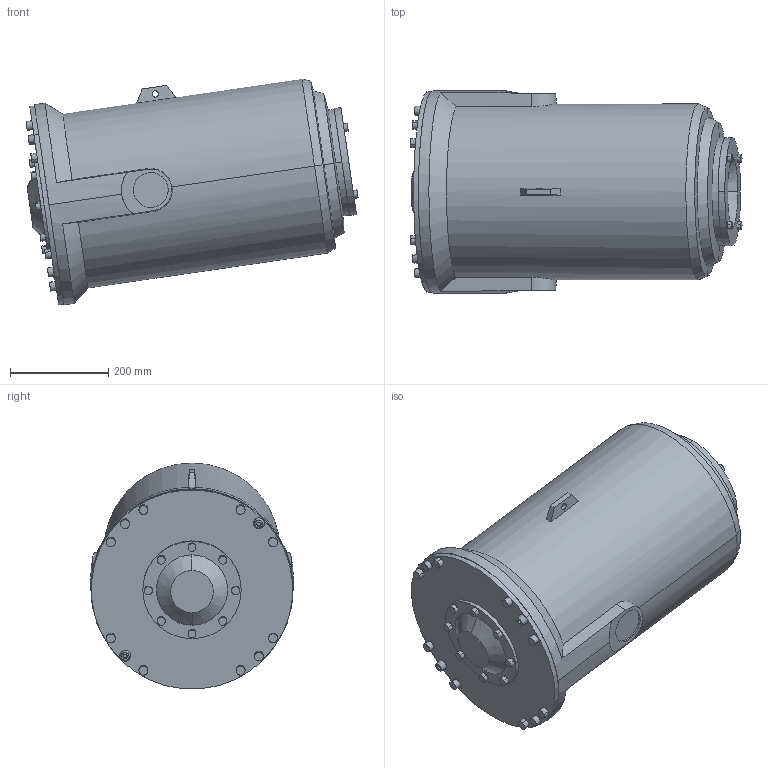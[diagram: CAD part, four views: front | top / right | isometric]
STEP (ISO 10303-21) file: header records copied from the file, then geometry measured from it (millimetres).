
FILE_DESCRIPTION (( 'STEP AP203' ), '1' );
FILE_NAME ('IRB6700-MH6_220-300_IRC5_rev00_CYLINDER_CAD.STEP', '2014-08-27T11:28:34', ( 'ABB' ), ( 'ABB' ), 'SwSTEP 2.0', 'SolidWorks 2012', '' );
FILE_SCHEMA (( 'CONFIG_CONTROL_DESIGN' ));
Length unit declared in the file: millimetre
Products named in the file (1): IRB6700-MH6_220-300_IRC5_rev00_CYLINDER_CAD
Bounding box: 675.69 x 412 x 459.81 mm (x, y, z)
Volume: 61551488.2 mm3; surface area: 1079902.9 mm2
Topology: 1 solids, 1 shells, 139 faces, 294 edges, 192 vertices
Faces by surface type: cylinder 68, plane 47, cone 22, bspline 2
Entity records: 4379 total; most frequent: CARTESIAN_POINT 1198, DIRECTION 704, ORIENTED_EDGE 588, AXIS2_PLACEMENT_3D 296, EDGE_CURVE 294, VERTEX_POINT 192, EDGE_LOOP 176, CIRCLE 158
